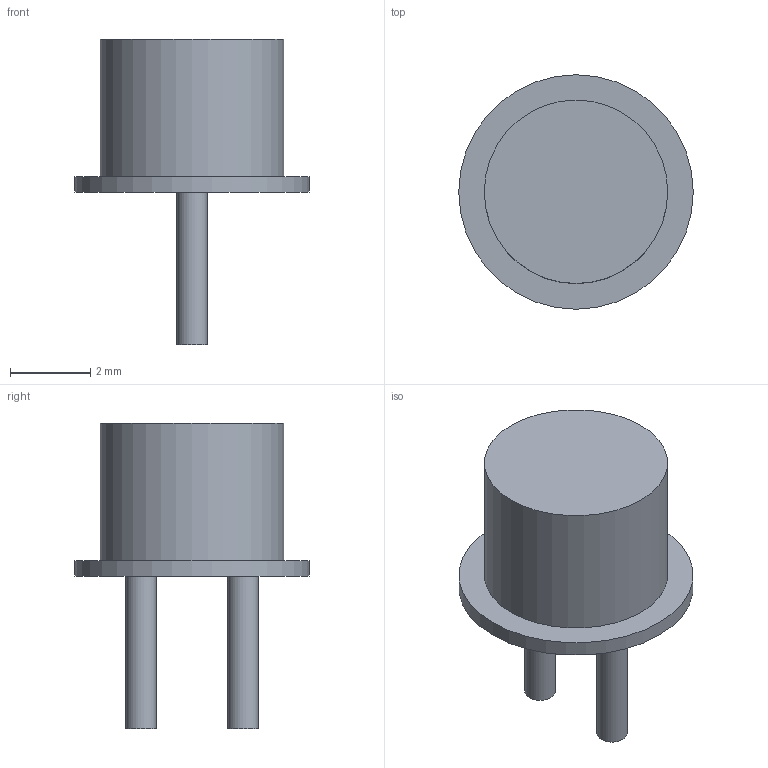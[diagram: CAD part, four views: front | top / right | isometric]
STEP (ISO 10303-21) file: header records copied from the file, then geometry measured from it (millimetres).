
FILE_DESCRIPTION(('STEP AP214'),'1');
FILE_NAME('H_02_1_ADI','2023-05-16T10:54:50',(''),(''),'','','');
FILE_SCHEMA(('AUTOMOTIVE_DESIGN'));
Length unit declared in the file: millimetre
Products named in the file (1): product
Bounding box: 5.84 x 5.84 x 7.62 mm (x, y, z)
Volume: 70 mm3; surface area: 162.8 mm2
Topology: 4 solids, 4 shells, 12 faces, 12 edges, 8 vertices
Faces by surface type: plane 8, cylinder 4
Full cylindrical faces by diameter (mm): 0.762 x2, 4.572 x1, 5.842 x1
Entity records: 394 total; most frequent: DIRECTION 50, CARTESIAN_POINT 33, AXIS2_PLACEMENT_3D 25, PRESENTATION_STYLE_ASSIGNMENT 17, SURFACE_STYLE_USAGE 17, SURFACE_SIDE_STYLE 17, SURFACE_STYLE_FILL_AREA 17, FILL_AREA_STYLE 17
